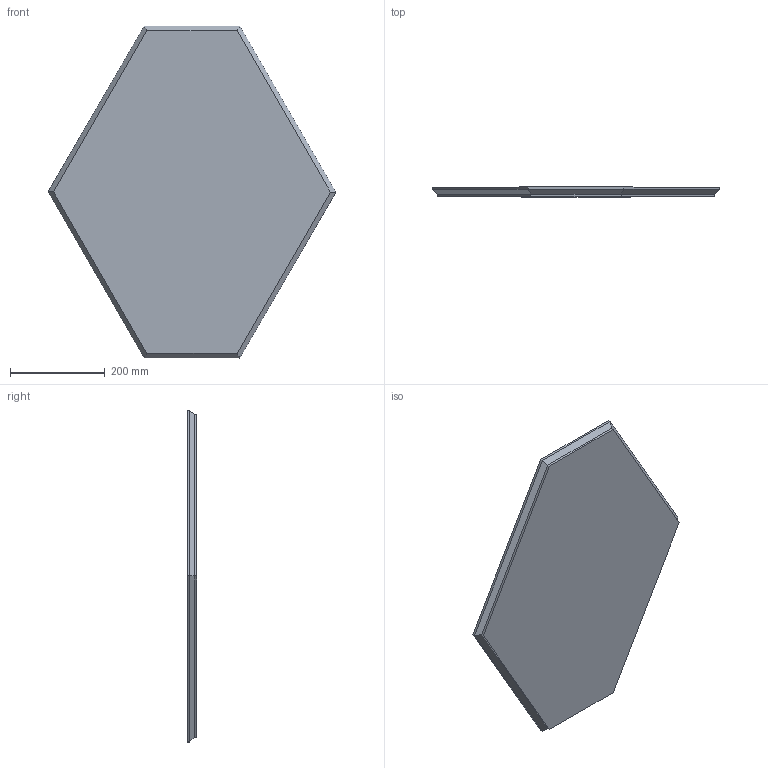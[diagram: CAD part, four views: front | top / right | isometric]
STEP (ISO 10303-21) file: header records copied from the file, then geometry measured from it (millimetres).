
FILE_DESCRIPTION (( 'STEP AP203' ), '1' );
FILE_NAME ('GEO01_GeoA_70x60,5.STEP', '2024-08-06T07:20:53', ( '' ), ( '' ), 'SwSTEP 2.0', 'SolidWorks 2022', '' );
FILE_SCHEMA (( 'CONFIG_CONTROL_DESIGN' ));
Length unit declared in the file: millimetre
Products named in the file (2): GEO01_GeoA_70x60,5; GEO0000000000-00-Geo strutture A B e C_GEO01 A 70X60,5
Assembly tree (1 placements, depth 2):
  GEO01_GeoA_70x60,5
    GEO0000000000-00-Geo strutture A B e C_GEO01 A 70X60,5
Bounding box: 606.5 x 20 x 700.01 mm (x, y, z)
Volume: 5413111.6 mm3; surface area: 1131721.4 mm2
Topology: 4 solids, 4 shells, 122 faces, 316 edges, 202 vertices
Faces by surface type: plane 70, cylinder 44, cone 8
Entity records: 3866 total; most frequent: DIRECTION 648, CARTESIAN_POINT 636, ORIENTED_EDGE 616, EDGE_CURVE 308, VECTOR 220, LINE 220, AXIS2_PLACEMENT_3D 214, VERTEX_POINT 202
